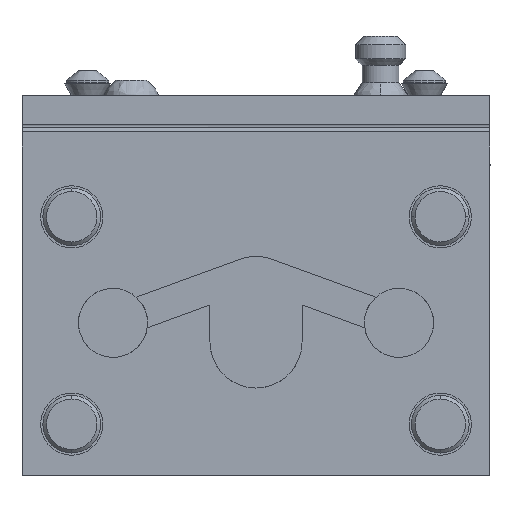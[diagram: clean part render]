
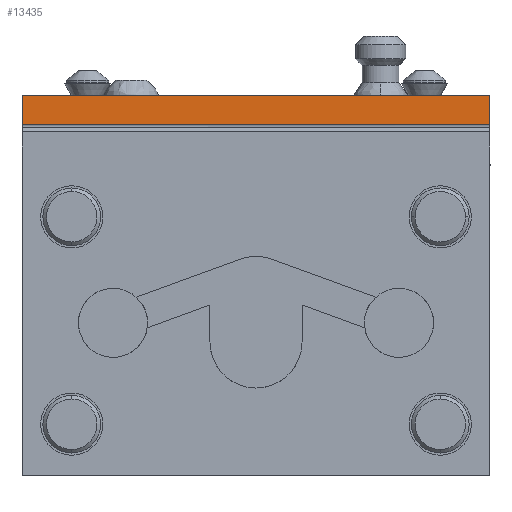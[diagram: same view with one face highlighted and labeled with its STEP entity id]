
A CAD part, front view. The second image highlights one B-rep face of the part: STEP entity #13435.
In plain terms, the highlighted planar face has unit normal (0, 1, 0).
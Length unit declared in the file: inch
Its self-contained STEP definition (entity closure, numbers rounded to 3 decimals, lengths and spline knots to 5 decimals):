
#1120 = EDGE_LOOP ( 'NONE', ( #9197, #4421, #7665, #1811 ) ) ;
#1811 = ORIENTED_EDGE ( 'NONE', *, *, #11154, .F. ) ;
#1937 = DIRECTION ( 'NONE',  ( 1., 0., 0. ) ) ;
#2099 = EDGE_CURVE ( 'NONE', #8928, #8501, #7578, .T. ) ;
#2633 = EDGE_CURVE ( 'NONE', #4982, #9733, #14603, .T. ) ;
#2643 = VECTOR ( 'NONE', #12858, 39.37008 ) ;
#2925 = CARTESIAN_POINT ( 'NONE',  ( 1.19353, -1.84425, -2.55659 ) ) ;
#3009 = DIRECTION ( 'NONE',  ( 0., 0., -1. ) ) ;
#3150 = CARTESIAN_POINT ( 'NONE',  ( 1.19353, -1.84425, 0.69341 ) ) ;
#3352 = CARTESIAN_POINT ( 'NONE',  ( -2.80647, -1.84425, 0.44341 ) ) ;
#3413 = CARTESIAN_POINT ( 'NONE',  ( -2.80647, -1.84425, 0.69341 ) ) ;
#3912 = CARTESIAN_POINT ( 'NONE',  ( -2.80647, -1.84425, 0.69341 ) ) ;
#4245 = CARTESIAN_POINT ( 'NONE',  ( -2.80647, -1.84425, -2.55659 ) ) ;
#4421 = ORIENTED_EDGE ( 'NONE', *, *, #12046, .F. ) ;
#4500 = DIRECTION ( 'NONE',  ( 0., 0., -1. ) ) ;
#4982 = VERTEX_POINT ( 'NONE', #12520 ) ;
#5708 = LINE ( 'NONE', #4245, #10434 ) ;
#7578 = LINE ( 'NONE', #3912, #2643 ) ;
#7665 = ORIENTED_EDGE ( 'NONE', *, *, #2099, .F. ) ;
#8410 = VECTOR ( 'NONE', #1937, 39.37008 ) ;
#8501 = VERTEX_POINT ( 'NONE', #3413 ) ;
#8928 = VERTEX_POINT ( 'NONE', #3150 ) ;
#9197 = ORIENTED_EDGE ( 'NONE', *, *, #2633, .F. ) ;
#9623 = CARTESIAN_POINT ( 'NONE',  ( 1.19353, -1.84425, 0.44341 ) ) ;
#9733 = VERTEX_POINT ( 'NONE', #9623 ) ;
#10434 = VECTOR ( 'NONE', #3009, 39.37008 ) ;
#10553 = DIRECTION ( 'NONE',  ( 0., 0., 1. ) ) ;
#11154 = EDGE_CURVE ( 'NONE', #9733, #8928, #11964, .T. ) ;
#11734 = PLANE ( 'NONE',  #15020 ) ;
#11892 = CARTESIAN_POINT ( 'NONE',  ( -2.80647, -1.84425, 0.44341 ) ) ;
#11964 = LINE ( 'NONE', #2925, #13315 ) ;
#12046 = EDGE_CURVE ( 'NONE', #8501, #4982, #5708, .T. ) ;
#12520 = CARTESIAN_POINT ( 'NONE',  ( -2.80647, -1.84425, 0.44341 ) ) ;
#12858 = DIRECTION ( 'NONE',  ( -1., 0., 0. ) ) ;
#13042 = FACE_OUTER_BOUND ( 'NONE', #1120, .T. ) ;
#13121 = DIRECTION ( 'NONE',  ( 0., -1., 0. ) ) ;
#13315 = VECTOR ( 'NONE', #10553, 39.37008 ) ;
#13435 = ADVANCED_FACE ( 'NONE', ( #13042 ), #11734, .F. ) ;
#14603 = LINE ( 'NONE', #3352, #8410 ) ;
#15020 = AXIS2_PLACEMENT_3D ( 'NONE', #11892, #13121, #4500 ) ;
